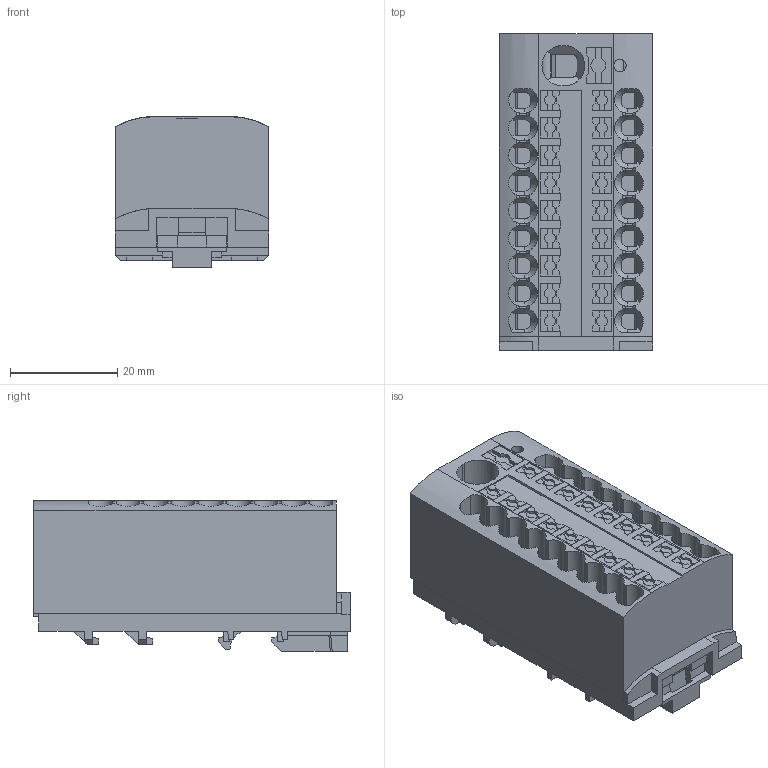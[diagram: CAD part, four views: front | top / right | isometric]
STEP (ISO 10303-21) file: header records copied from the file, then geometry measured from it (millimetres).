
FILE_DESCRIPTION(/* description */ ('Unknown'),/* implementation_level */ '2;1');
FILE_NAME(/* name */ 'PTFIX 6／18X2,5-N35 BKJP 1272555',/* time_stamp */ '2021-05-27T19:01:54+09:00',/* author */ ('Unknown'),/* organization */ ('Unknown'),/* preprocessor_version */ 'ST-DEVELOPER v16.7',/* originating_system */ 'Solid Edge',/* authorisation */ 'Unknown');
FILE_SCHEMA (('AUTOMOTIVE_DESIGN {1 0 10303 214 3 1 1}'));
Products named in the file (3): PTFIX 6／18X2,5-N35 BKJP 12725553; pxc_3274054_00_PTFIX-NS35_3D; pxc_3273388_03_PTFIX-6-18X2-5-BK_3D
Assembly tree (2 placements, depth 2):
  PTFIX 6／18X2,5-N35 BKJP 12725553
    pxc_3274054_00_PTFIX-NS35_3D
    pxc_3273388_03_PTFIX-6-18X2-5-BK_3D
Bounding box: 28.6 x 59 x 28.15 mm (x, y, z)
Volume: 35482.3 mm3; surface area: 17030.7 mm2
Topology: 2 solids, 2 shells, 959 faces, 2800 edges, 1857 vertices
Faces by surface type: plane 783, cylinder 158, cone 18
Full cylindrical faces by diameter (mm): 2.3 x1
Entity records: 49656 total; most frequent: CARTESIAN_POINT 17501, ORIENTED_EDGE 5596, DIRECTION 4881, EDGE_CURVE 2798, LINE 2291, VECTOR 2291, VERTEX_POINT 1856, AXIS2_PLACEMENT_3D 1295
